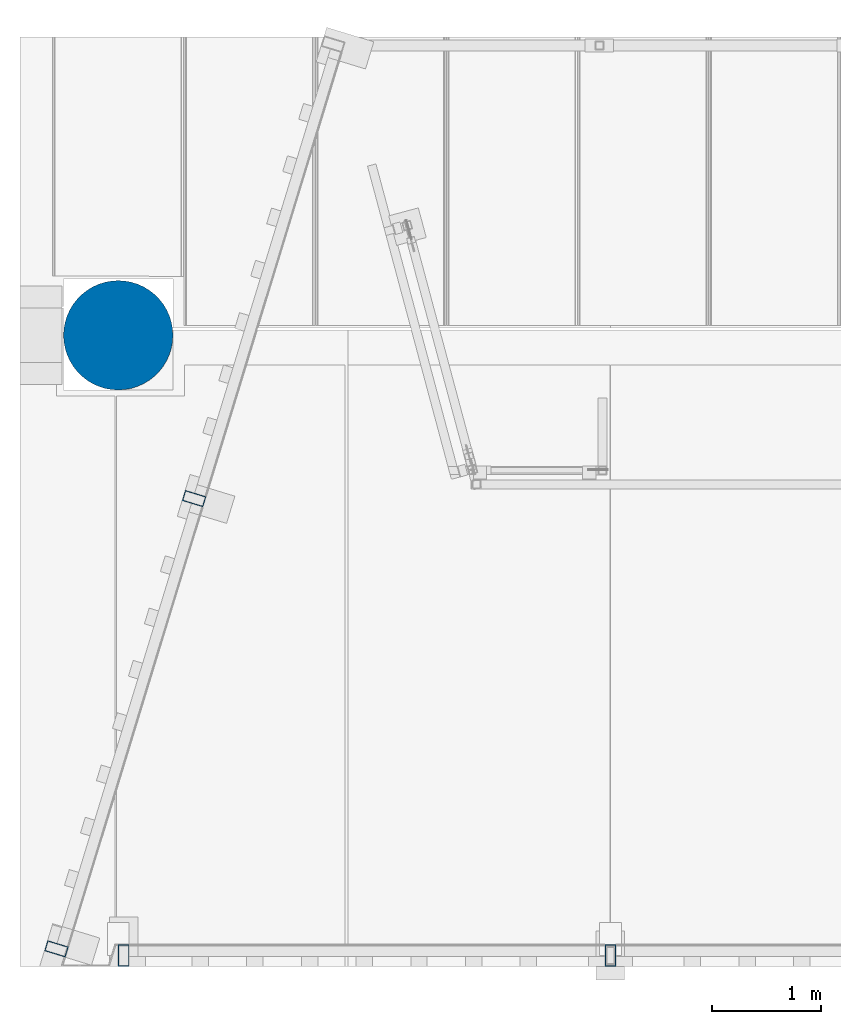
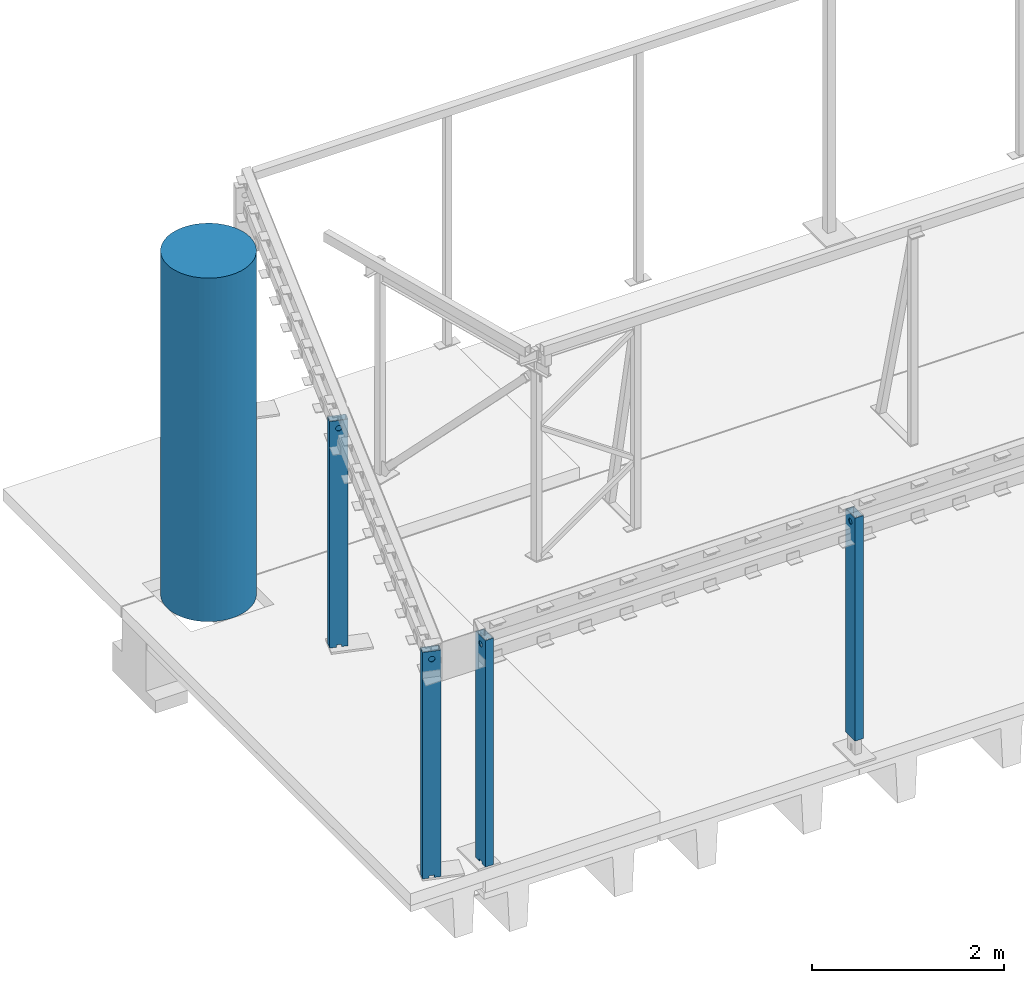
# One storey, part 1 of 19: 5 columns.
"""IFC2X3 building model written with IfcOpenShell, lengths in millimetres."""

from ifc_helpers import new_model, entity, si_unit, converted_unit, derived_unit, direction, frame, origin_with_axes, place, context, subcontext, project, spatial, faceted_brep, material, type_object, element, save


model = new_model("IFC2X3")

# Units and contexts
model_context = context("Model", 3, precision=0.01, world=frame((0.0, 4.29681676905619e-09, 0.0)), true_north=direction((4.01073788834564e-13, 1.0)))
plan_context = context("Plan", 3, precision=0.01, world=frame((0.0, 4.29681676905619e-09, 0.0)), true_north=direction((4.01073788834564e-13, 1.0)))
body_context = subcontext(model_context, "Body", "Model", "MODEL_VIEW")
ifc_project = project(units=[converted_unit("PLANEANGLEUNIT", "DEGREE", entity("IfcPositiveLengthMeasure", 0.0174532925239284), si_unit("PLANEANGLEUNIT", "RADIAN"), dimensions=[0, 0, 0, 0, 0, 0, 0]), si_unit("AREAUNIT", "SQUARE_METRE"), si_unit("LENGTHUNIT", "METRE", prefix="MILLI"), si_unit("MASSUNIT", "GRAM", prefix="KILO"), si_unit("POWERUNIT", "WATT"), si_unit("PRESSUREUNIT", "PASCAL", prefix="KILO"), si_unit("FORCEUNIT", "NEWTON", prefix="KILO"), si_unit("ELECTRICVOLTAGEUNIT", "VOLT"), si_unit("ELECTRICCURRENTUNIT", "AMPERE"), si_unit("THERMODYNAMICTEMPERATUREUNIT", "DEGREE_CELSIUS"), si_unit("TIMEUNIT", "SECOND"), si_unit("VOLUMEUNIT", "CUBIC_METRE"), derived_unit("LINEARVELOCITYUNIT", [(si_unit("LENGTHUNIT", "METRE"), 1), (si_unit("TIMEUNIT", "SECOND"), -1)]), derived_unit("VOLUMETRICFLOWRATEUNIT", [(si_unit("VOLUMEUNIT", "CUBIC_METRE"), 1), (si_unit("TIMEUNIT", "SECOND"), -1)]), derived_unit("THERMALTRANSMITTANCEUNIT", [(si_unit("POWERUNIT", "WATT"), 1), (si_unit("THERMODYNAMICTEMPERATUREUNIT", "KELVIN"), -1), (si_unit("AREAUNIT", "SQUARE_METRE"), -1)]), derived_unit("SOUNDPRESSUREUNIT", [(si_unit("PRESSUREUNIT", "PASCAL"), 1)])], contexts=[model_context, plan_context])

# Site, building, storey
site_placement = place(None, frame((0.0, -4.29681676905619e-09, 0.0), z_axis=(0.0, 0.0, 1.0), x_axis=(1.0, 0.0, 0.0)))
site = spatial("IfcSite", under=ifc_project, at=site_placement, Name="Gardermoen", CompositionType="ELEMENT")
building_placement = place(site_placement, frame((0.0, 4.29681676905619e-09, 0.0), z_axis=(0.0, 0.0, 1.0), x_axis=(1.0, 0.0, 0.0)))
building = spatial("IfcBuilding", under=site, at=building_placement, Name="TI", CompositionType="ELEMENT")
storey_placement = place(building_placement, origin_with_axes())
storey = spatial("IfcBuildingStorey", under=building, at=storey_placement, Name="F", CompositionType="ELEMENT", Elevation=0.0)

# Columns
ifc_material_1 = material(Name="STEEL/S355")
column_type_1 = type_object("IfcColumnType", Name="RHS200*100*8", PredefinedType="NOTDEFINED")
column_1_placement = place(storey_placement, frame((583050.000043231, 569830.0, 210855.0), z_axis=(0.0, 1.0, 0.0), x_axis=(0.0, 0.0, 1.0)))
element("IfcColumn", 1, at=column_1_placement, inside=storey, type_object=column_type_1, material=ifc_material_1, Name="STÅLSØYLE", ObjectType="RHS200*100*8", context=body_context, shape_type="Brep", body=[
    faceted_brep([(30.0000000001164, -50.0, -27.5), (30.0000000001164, -42.0, -27.5), (0.0, -42.0, -27.5), (0.0, -50.0, -27.5), (30.0000000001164, -50.0, 27.5), (30.0000000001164, -42.0, 27.5), (0.0, -50.0, 27.5), (0.0, -42.0, 27.5), (30.0000000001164, 42.0, -27.5), (30.0000000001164, 50.0, -27.5), (0.0, 50.0, -27.5), (0.0, 42.0, -27.5), (30.0000000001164, 42.0, 27.5), (30.0000000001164, 50.0, 27.5), (0.0, 42.0, 27.5), (0.0, 50.0, 27.5), (0.0, -50.0, -100.0), (0.0, 50.0, -100.0), (2882.0006866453, 50.0, -100.0), (2882.0006866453, -50.0, -100.0), (-1.39698386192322e-06, 50.0000000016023, 99.999992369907), (-1.39791518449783e-06, -49.9999999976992, 99.999992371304), (2882.0006866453, -50.0, 100.0), (2882.0006866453, 50.0, 100.0), (0.0, 42.0, 92.0), (0.0, -42.0, 92.0), (2882.0006866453, 42.0, 92.0), (2882.0006866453, -42.0, 92.0), (2882.0006866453, 42.0, -92.0), (2882.0006866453, -42.0, -92.0), (0.0, 42.0, -92.0), (0.0, -42.0, -92.0), (2806.74942397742, -41.9999999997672, 24.7487373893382), (2795.39460676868, -42.0, 32.3357836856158), (2782.0006866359, -42.0, 35.0000000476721), (2768.60676650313, -42.0, 32.3357836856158), (2757.25194929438, -41.9999999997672, 24.7487373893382), (2749.66490299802, -41.9999999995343, 13.3939201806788), (2747.0006866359, -41.9999999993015, 4.79631125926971e-08), (2749.66490299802, -41.9999999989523, -13.3939200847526), (2757.25194929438, -41.9999999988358, -24.7487372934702), (2768.60676650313, -41.9999999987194, -32.3357835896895), (2782.0006866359, -41.999999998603, -34.9999999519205), (2795.39460676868, -41.9999999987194, -32.3357835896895), (2806.74942397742, -41.9999999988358, -24.7487372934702), (2814.33647027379, -41.9999999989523, -13.3939200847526), (2817.0006866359, -41.9999999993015, 4.79631125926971e-08), (2814.33647027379, -41.9999999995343, 13.3939201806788), (2814.33647027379, -49.9999999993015, 13.3939201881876), (2817.0006866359, -49.9999999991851, 5.5413693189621e-08), (2806.74942397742, -49.9999999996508, 24.7487373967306), (2795.39460676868, -49.9999999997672, 32.3357836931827), (2782.0006866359, -49.9999999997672, 35.0000000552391), (2768.60676650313, -49.9999999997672, 32.3357836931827), (2757.25194929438, -49.9999999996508, 24.7487373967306), (2749.66490299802, -49.9999999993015, 13.3939201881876), (2747.0006866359, -49.9999999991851, 5.5413693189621e-08), (2749.66490299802, -49.9999999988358, -13.3939200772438), (2757.25194929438, -49.999999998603, -24.7487372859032), (2768.60676650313, -49.9999999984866, -32.3357835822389), (2782.0006866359, -49.9999999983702, -34.9999999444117), (2795.39460676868, -49.9999999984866, -32.3357835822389), (2806.74942397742, -49.999999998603, -24.7487372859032), (2814.33647027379, -49.9999999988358, -13.3939200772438), (2806.74942397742, 49.999999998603, 24.748737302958), (2795.39460676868, 49.9999999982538, 32.3357835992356), (2782.0006866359, 49.9999999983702, 34.9999999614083), (2768.60676650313, 49.9999999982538, 32.3357835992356), (2757.25194929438, 49.999999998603, 24.748737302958), (2749.66490299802, 49.9999999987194, 13.3939200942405), (2747.0006866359, 49.9999999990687, -3.84170562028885e-08), (2749.66490299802, 49.9999999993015, -13.393920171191), (2757.25194929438, 49.9999999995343, -24.7487373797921), (2768.60676650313, 49.9999999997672, -32.3357836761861), (2782.0006866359, 49.9999999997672, -35.0000000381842), (2795.39460676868, 49.9999999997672, -32.3357836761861), (2806.74942397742, 49.9999999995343, -24.7487373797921), (2814.33647027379, 49.9999999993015, -13.393920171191), (2817.0006866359, 49.9999999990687, -3.84170562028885e-08), (2814.33647027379, 49.9999999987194, 13.3939200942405), (2814.33647027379, 41.9999999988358, 13.3939201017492), (2817.0006866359, 41.9999999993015, -3.09664756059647e-08), (2806.74942397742, 41.999999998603, 24.7487373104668), (2795.39460676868, 41.999999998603, 32.3357836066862), (2782.0006866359, 41.9999999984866, 34.9999999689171), (2768.60676650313, 41.999999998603, 32.3357836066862), (2757.25194929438, 41.999999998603, 24.7487373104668), (2749.66490299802, 41.9999999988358, 13.3939201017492), (2747.0006866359, 41.9999999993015, -3.09664756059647e-08), (2749.66490299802, 41.9999999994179, -13.393920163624), (2757.25194929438, 41.9999999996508, -24.7487373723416), (2768.60676650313, 41.9999999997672, -32.3357836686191), (2782.0006866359, 41.9999999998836, -35.0000000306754), (2795.39460676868, 41.9999999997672, -32.3357836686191), (2806.74942397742, 41.9999999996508, -24.7487373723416), (2814.33647027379, 41.9999999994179, -13.393920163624)], [[[0, 1, 2, 3]], [[4, 5, 1, 0]], [[6, 7, 5, 4]], [[8, 9, 10, 11]], [[12, 13, 9, 8]], [[14, 15, 13, 12]], [[16, 17, 18, 19]], [[20, 21, 22, 23]], [[21, 20, 15, 14, 24, 25, 7, 6]], [[25, 24, 26, 27]], [[22, 19, 18, 23], [27, 26, 28, 29]], [[30, 31, 29, 28]], [[25, 27, 29, 31, 2, 1, 5, 7], [32, 33, 34, 35, 36, 37, 38, 39, 40, 41, 42, 43, 44, 45, 46, 47]], [[48, 47, 46, 49]], [[50, 32, 47, 48]], [[51, 33, 32, 50]], [[52, 34, 33, 51]], [[53, 35, 34, 52]], [[54, 36, 35, 53]], [[55, 37, 36, 54]], [[56, 38, 37, 55]], [[57, 39, 38, 56]], [[58, 40, 39, 57]], [[59, 41, 40, 58]], [[60, 42, 41, 59]], [[61, 43, 42, 60]], [[62, 44, 43, 61]], [[63, 45, 44, 62]], [[49, 46, 45, 63]], [[3, 16, 19, 22, 21, 6, 4, 0], [62, 61, 60, 59, 58, 57, 56, 55, 54, 53, 52, 51, 50, 48, 49, 63]], [[31, 30, 11, 10, 17, 16, 3, 2]], [[20, 23, 18, 17, 10, 9, 13, 15], [64, 65, 66, 67, 68, 69, 70, 71, 72, 73, 74, 75, 76, 77, 78, 79]], [[80, 79, 78, 81]], [[82, 64, 79, 80]], [[83, 65, 64, 82]], [[84, 66, 65, 83]], [[85, 67, 66, 84]], [[86, 68, 67, 85]], [[87, 69, 68, 86]], [[88, 70, 69, 87]], [[89, 71, 70, 88]], [[90, 72, 71, 89]], [[91, 73, 72, 90]], [[92, 74, 73, 91]], [[93, 75, 74, 92]], [[94, 76, 75, 93]], [[95, 77, 76, 94]], [[81, 78, 77, 95]], [[11, 30, 28, 26, 24, 14, 12, 8], [94, 93, 92, 91, 90, 89, 88, 87, 86, 85, 84, 83, 82, 80, 81, 95]]]),
])
column_2_placement = place(storey_placement, frame((587500.000043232, 569830.0, 210900.000305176), z_axis=(0.0, 1.0, 0.0), x_axis=(0.0, 0.0, 1.0)))
element("IfcColumn", 2, at=column_2_placement, inside=storey, type_object=column_type_1, material=ifc_material_1, Name="STÅLSØYLE", ObjectType="RHS200*100*8", context=body_context, shape_type="Brep", body=[
    faceted_brep([(2769.33616510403, -50.0, -13.3939201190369), (2769.33616510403, -42.0, -13.3939201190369), (2761.74911880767, -42.0, -24.7487373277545), (2761.74911880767, -50.0, -24.7487373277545), (2750.39430159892, -42.0, -32.3357836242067), (2750.39430159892, -50.0, -32.3357836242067), (2737.00038146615, -42.0, -34.999999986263), (2737.00038146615, -50.0, -34.999999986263), (2723.60646133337, -42.0, -32.3357836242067), (2723.60646133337, -50.0, -32.3357836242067), (2712.25164412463, -42.0, -24.7487373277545), (2712.25164412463, -50.0, -24.7487373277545), (2704.66459782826, -42.0, -13.3939201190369), (2704.66459782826, -50.0, -13.3939201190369), (2702.00038146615, -42.0, 1.37370079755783e-08), (2702.00038146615, -50.0, 1.37370079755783e-08), (2704.66459782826, -42.0, 13.3939201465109), (2704.66459782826, -50.0, 13.3939201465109), (2712.25164412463, -42.0, 24.7487373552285), (2712.25164412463, -50.0, 24.7487373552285), (2723.60646133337, -42.0, 32.3357836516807), (2723.60646133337, -50.0, 32.3357836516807), (2737.00038146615, -42.0, 35.000000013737), (2737.00038146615, -50.0, 35.000000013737), (2750.39430159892, -42.0, 32.3357836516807), (2750.39430159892, -50.0, 32.3357836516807), (2761.74911880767, -42.0, 24.7487373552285), (2761.74911880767, -50.0, 24.7487373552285), (2769.33616510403, -42.0, 13.3939201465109), (2769.33616510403, -50.0, 13.3939201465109), (2772.00038146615, -42.0, 1.37370079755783e-08), (2772.00038146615, -50.0, 1.37370079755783e-08), (2769.33616510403, 42.0, -13.3939201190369), (2769.33616510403, 50.0, -13.3939201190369), (2761.74911880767, 50.0, -24.7487373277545), (2761.74911880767, 42.0, -24.7487373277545), (2750.39430159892, 50.0, -32.3357836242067), (2750.39430159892, 42.0, -32.3357836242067), (2737.00038146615, 50.0, -34.999999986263), (2737.00038146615, 42.0, -34.999999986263), (2723.60646133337, 50.0, -32.3357836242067), (2723.60646133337, 42.0, -32.3357836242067), (2712.25164412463, 50.0, -24.7487373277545), (2712.25164412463, 42.0, -24.7487373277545), (2704.66459782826, 50.0, -13.3939201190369), (2704.66459782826, 42.0, -13.3939201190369), (2702.00038146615, 50.0, 1.37370079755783e-08), (2702.00038146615, 42.0, 1.37370079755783e-08), (2704.66459782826, 50.0, 13.3939201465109), (2704.66459782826, 42.0, 13.3939201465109), (2712.25164412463, 50.0, 24.7487373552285), (2712.25164412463, 42.0, 24.7487373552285), (2723.60646133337, 50.0, 32.3357836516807), (2723.60646133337, 42.0, 32.3357836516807), (2737.00038146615, 50.0, 35.000000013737), (2737.00038146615, 42.0, 35.000000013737), (2750.39430159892, 50.0, 32.3357836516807), (2750.39430159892, 42.0, 32.3357836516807), (2761.74911880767, 50.0, 24.7487373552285), (2761.74911880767, 42.0, 24.7487373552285), (2769.33616510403, 50.0, 13.3939201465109), (2769.33616510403, 42.0, 13.3939201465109), (2772.00038146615, 50.0, 1.37370079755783e-08), (2772.00038146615, 42.0, 1.37370079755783e-08), (0.0, -50.0, -100.0), (0.0, 50.0, -100.0), (2836.99931335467, 50.0, -100.0), (2836.99931335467, -50.0, -100.0), (-1.39791518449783e-06, -49.9999999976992, 99.999992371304), (2836.99931335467, -50.0, 100.0), (-1.39698386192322e-06, 50.0000000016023, 99.999992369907), (2836.99931335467, 50.0, 100.0), (0.0, 42.0, 92.0), (0.0, -42.0, 92.0), (0.0, -42.0, -92.0), (0.0, 42.0, -92.0), (2836.99931335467, 42.0, -92.0), (2836.99931335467, 42.0, 92.0), (2836.99931335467, -42.0, 92.0), (2836.99931335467, -42.0, -92.0)], [[[0, 1, 2, 3]], [[3, 2, 4, 5]], [[5, 4, 6, 7]], [[7, 6, 8, 9]], [[9, 8, 10, 11]], [[11, 10, 12, 13]], [[13, 12, 14, 15]], [[15, 14, 16, 17]], [[17, 16, 18, 19]], [[19, 18, 20, 21]], [[21, 20, 22, 23]], [[23, 22, 24, 25]], [[25, 24, 26, 27]], [[27, 26, 28, 29]], [[29, 28, 30, 31]], [[31, 30, 1, 0]], [[32, 33, 34, 35]], [[35, 34, 36, 37]], [[37, 36, 38, 39]], [[39, 38, 40, 41]], [[41, 40, 42, 43]], [[43, 42, 44, 45]], [[45, 44, 46, 47]], [[47, 46, 48, 49]], [[49, 48, 50, 51]], [[51, 50, 52, 53]], [[53, 52, 54, 55]], [[55, 54, 56, 57]], [[57, 56, 58, 59]], [[59, 58, 60, 61]], [[61, 60, 62, 63]], [[63, 62, 33, 32]], [[64, 65, 66, 67]], [[68, 64, 67, 69], [3, 5, 7, 9, 11, 13, 15, 17, 19, 21, 23, 25, 27, 29, 31, 0]], [[70, 68, 69, 71]], [[64, 68, 70, 65], [72, 73, 74, 75]], [[72, 75, 76, 77], [35, 37, 39, 41, 43, 45, 47, 49, 51, 53, 55, 57, 59, 61, 63, 32]], [[73, 72, 77, 78]], [[74, 73, 78, 79], [26, 24, 22, 20, 18, 16, 14, 12, 10, 8, 6, 4, 2, 1, 30, 28]], [[75, 74, 79, 76]], [[69, 67, 66, 71], [78, 77, 76, 79]], [[65, 70, 71, 66], [58, 56, 54, 52, 50, 48, 46, 44, 42, 40, 38, 36, 34, 33, 62, 60]]]),
])
column_3_placement = place(storey_placement, frame((583693.835921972, 574006.690955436, 210855.0), z_axis=(0.956304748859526, -0.292371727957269, 0.0), x_axis=(0.0, 0.0, 1.0)))
element("IfcColumn", 3, at=column_3_placement, inside=storey, type_object=column_type_1, material=ifc_material_1, Name="STÅLSØYLE", ObjectType="RHS200*100*8", context=body_context, shape_type="Brep", body=[
    faceted_brep([(30.0000000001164, -50.0, -27.5), (30.0000000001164, -42.0, -27.5), (0.0, -42.0, -27.5), (0.0, -50.0, -27.5), (30.0000000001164, -50.0, 27.5), (30.0000000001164, -42.0, 27.5), (0.0, -50.0, 27.5), (0.0, -42.0, 27.5), (30.0000000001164, 42.0, -27.5), (30.0000000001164, 50.0, -27.5), (0.0, 50.0, -27.5), (0.0, 42.0, -27.5), (30.0000000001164, 42.0, 27.5), (30.0000000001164, 50.0, 27.5), (0.0, 42.0, 27.5), (0.0, 50.0, 27.5), (0.0, -50.0, -100.0), (0.0, 50.0, -100.0), (2882.0006866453, 50.0, -100.0), (2882.0006866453, -50.0, -100.0), (-1.39698386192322e-06, 50.0000000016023, 99.999992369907), (-1.39791518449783e-06, -49.9999999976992, 99.999992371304), (2882.0006866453, -50.0, 100.0), (2882.0006866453, 50.0, 100.0), (0.0, 42.0, 92.0), (0.0, -42.0, 92.0), (2882.0006866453, 42.0, 92.0), (2882.0006866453, -42.0, 92.0), (2882.0006866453, 42.0, -92.0), (2882.0006866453, -42.0, -92.0), (0.0, 42.0, -92.0), (0.0, -42.0, -92.0), (2806.74942397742, -41.9999999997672, 24.7487373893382), (2795.39460676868, -42.0, 32.3357836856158), (2782.0006866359, -42.0, 35.0000000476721), (2768.60676650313, -42.0, 32.3357836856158), (2757.25194929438, -41.9999999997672, 24.7487373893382), (2749.66490299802, -41.9999999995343, 13.3939201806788), (2747.0006866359, -41.9999999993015, 4.79631125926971e-08), (2749.66490299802, -41.9999999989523, -13.3939200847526), (2757.25194929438, -41.9999999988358, -24.7487372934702), (2768.60676650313, -41.9999999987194, -32.3357835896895), (2782.0006866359, -41.999999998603, -34.9999999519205), (2795.39460676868, -41.9999999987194, -32.3357835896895), (2806.74942397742, -41.9999999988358, -24.7487372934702), (2814.33647027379, -41.9999999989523, -13.3939200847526), (2817.0006866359, -41.9999999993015, 4.79631125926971e-08), (2814.33647027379, -41.9999999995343, 13.3939201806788), (2814.33647027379, -49.9999999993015, 13.3939201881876), (2817.0006866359, -49.9999999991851, 5.5413693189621e-08), (2806.74942397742, -49.9999999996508, 24.7487373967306), (2795.39460676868, -49.9999999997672, 32.3357836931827), (2782.0006866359, -49.9999999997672, 35.0000000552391), (2768.60676650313, -49.9999999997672, 32.3357836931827), (2757.25194929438, -49.9999999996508, 24.7487373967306), (2749.66490299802, -49.9999999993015, 13.3939201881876), (2747.0006866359, -49.9999999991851, 5.5413693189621e-08), (2749.66490299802, -49.9999999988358, -13.3939200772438), (2757.25194929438, -49.999999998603, -24.7487372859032), (2768.60676650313, -49.9999999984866, -32.3357835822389), (2782.0006866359, -49.9999999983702, -34.9999999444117), (2795.39460676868, -49.9999999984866, -32.3357835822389), (2806.74942397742, -49.999999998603, -24.7487372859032), (2814.33647027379, -49.9999999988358, -13.3939200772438), (2806.74942397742, 49.999999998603, 24.748737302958), (2795.39460676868, 49.9999999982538, 32.3357835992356), (2782.0006866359, 49.9999999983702, 34.9999999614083), (2768.60676650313, 49.9999999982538, 32.3357835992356), (2757.25194929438, 49.999999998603, 24.748737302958), (2749.66490299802, 49.9999999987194, 13.3939200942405), (2747.0006866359, 49.9999999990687, -3.84170562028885e-08), (2749.66490299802, 49.9999999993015, -13.393920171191), (2757.25194929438, 49.9999999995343, -24.7487373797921), (2768.60676650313, 49.9999999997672, -32.3357836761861), (2782.0006866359, 49.9999999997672, -35.0000000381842), (2795.39460676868, 49.9999999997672, -32.3357836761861), (2806.74942397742, 49.9999999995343, -24.7487373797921), (2814.33647027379, 49.9999999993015, -13.393920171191), (2817.0006866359, 49.9999999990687, -3.84170562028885e-08), (2814.33647027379, 49.9999999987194, 13.3939200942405), (2814.33647027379, 41.9999999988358, 13.3939201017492), (2817.0006866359, 41.9999999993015, -3.09664756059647e-08), (2806.74942397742, 41.999999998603, 24.7487373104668), (2795.39460676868, 41.999999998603, 32.3357836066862), (2782.0006866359, 41.9999999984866, 34.9999999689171), (2768.60676650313, 41.999999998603, 32.3357836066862), (2757.25194929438, 41.999999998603, 24.7487373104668), (2749.66490299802, 41.9999999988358, 13.3939201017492), (2747.0006866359, 41.9999999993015, -3.09664756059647e-08), (2749.66490299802, 41.9999999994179, -13.393920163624), (2757.25194929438, 41.9999999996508, -24.7487373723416), (2768.60676650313, 41.9999999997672, -32.3357836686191), (2782.0006866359, 41.9999999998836, -35.0000000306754), (2795.39460676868, 41.9999999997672, -32.3357836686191), (2806.74942397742, 41.9999999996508, -24.7487373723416), (2814.33647027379, 41.9999999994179, -13.393920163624)], [[[0, 1, 2, 3]], [[4, 5, 1, 0]], [[6, 7, 5, 4]], [[8, 9, 10, 11]], [[12, 13, 9, 8]], [[14, 15, 13, 12]], [[16, 17, 18, 19]], [[20, 21, 22, 23]], [[21, 20, 15, 14, 24, 25, 7, 6]], [[25, 24, 26, 27]], [[22, 19, 18, 23], [27, 26, 28, 29]], [[30, 31, 29, 28]], [[25, 27, 29, 31, 2, 1, 5, 7], [32, 33, 34, 35, 36, 37, 38, 39, 40, 41, 42, 43, 44, 45, 46, 47]], [[48, 47, 46, 49]], [[50, 32, 47, 48]], [[51, 33, 32, 50]], [[52, 34, 33, 51]], [[53, 35, 34, 52]], [[54, 36, 35, 53]], [[55, 37, 36, 54]], [[56, 38, 37, 55]], [[57, 39, 38, 56]], [[58, 40, 39, 57]], [[59, 41, 40, 58]], [[60, 42, 41, 59]], [[61, 43, 42, 60]], [[62, 44, 43, 61]], [[63, 45, 44, 62]], [[49, 46, 45, 63]], [[3, 16, 19, 22, 21, 6, 4, 0], [62, 61, 60, 59, 58, 57, 56, 55, 54, 53, 52, 51, 50, 48, 49, 63]], [[31, 30, 11, 10, 17, 16, 3, 2]], [[20, 23, 18, 17, 10, 9, 13, 15], [64, 65, 66, 67, 68, 69, 70, 71, 72, 73, 74, 75, 76, 77, 78, 79]], [[80, 79, 78, 81]], [[82, 64, 79, 80]], [[83, 65, 64, 82]], [[84, 66, 65, 83]], [[85, 67, 66, 84]], [[86, 68, 67, 85]], [[87, 69, 68, 86]], [[88, 70, 69, 87]], [[89, 71, 70, 88]], [[90, 72, 71, 89]], [[91, 73, 72, 90]], [[92, 74, 73, 91]], [[93, 75, 74, 92]], [[94, 76, 75, 93]], [[95, 77, 76, 94]], [[81, 78, 77, 95]], [[11, 30, 28, 26, 24, 14, 12, 8], [94, 93, 92, 91, 90, 89, 88, 87, 86, 85, 84, 83, 82, 80, 81, 95]]]),
])
column_4_placement = place(storey_placement, frame((582435.175732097, 569889.798981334, 210855.0), z_axis=(0.956304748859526, -0.292371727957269, 0.0), x_axis=(0.0, 0.0, 1.0)))
element("IfcColumn", 4, at=column_4_placement, inside=storey, type_object=column_type_1, material=ifc_material_1, Name="STÅLSØYLE", ObjectType="RHS200*100*8", context=body_context, shape_type="Brep", body=[
    faceted_brep([(30.0000000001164, -50.0, -27.5), (30.0000000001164, -42.0, -27.5), (0.0, -42.0, -27.5), (0.0, -50.0, -27.5), (30.0000000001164, -50.0, 27.5), (30.0000000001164, -42.0, 27.5), (0.0, -50.0, 27.5), (0.0, -42.0, 27.5), (30.0000000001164, 42.0, -27.5), (30.0000000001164, 50.0, -27.5), (0.0, 50.0, -27.5), (0.0, 42.0, -27.5), (30.0000000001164, 42.0, 27.5), (30.0000000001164, 50.0, 27.5), (0.0, 42.0, 27.5), (0.0, 50.0, 27.5), (0.0, -50.0, -100.0), (0.0, 50.0, -100.0), (2882.0006866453, 50.0, -100.0), (2882.0006866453, -50.0, -100.0), (-1.39698386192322e-06, 50.0000000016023, 99.999992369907), (-1.39791518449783e-06, -49.9999999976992, 99.999992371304), (2882.0006866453, -50.0, 100.0), (2882.0006866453, 50.0, 100.0), (0.0, 42.0, 92.0), (0.0, -42.0, 92.0), (2882.0006866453, 42.0, 92.0), (2882.0006866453, -42.0, 92.0), (2882.0006866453, 42.0, -92.0), (2882.0006866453, -42.0, -92.0), (0.0, 42.0, -92.0), (0.0, -42.0, -92.0), (2806.74942397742, -41.9999999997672, 24.7487373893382), (2795.39460676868, -42.0, 32.3357836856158), (2782.0006866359, -42.0, 35.0000000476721), (2768.60676650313, -42.0, 32.3357836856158), (2757.25194929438, -41.9999999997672, 24.7487373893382), (2749.66490299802, -41.9999999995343, 13.3939201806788), (2747.0006866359, -41.9999999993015, 4.79631125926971e-08), (2749.66490299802, -41.9999999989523, -13.3939200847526), (2757.25194929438, -41.9999999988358, -24.7487372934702), (2768.60676650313, -41.9999999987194, -32.3357835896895), (2782.0006866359, -41.999999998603, -34.9999999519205), (2795.39460676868, -41.9999999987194, -32.3357835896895), (2806.74942397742, -41.9999999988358, -24.7487372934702), (2814.33647027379, -41.9999999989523, -13.3939200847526), (2817.0006866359, -41.9999999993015, 4.79631125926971e-08), (2814.33647027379, -41.9999999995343, 13.3939201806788), (2814.33647027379, -49.9999999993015, 13.3939201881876), (2817.0006866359, -49.9999999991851, 5.5413693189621e-08), (2806.74942397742, -49.9999999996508, 24.7487373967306), (2795.39460676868, -49.9999999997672, 32.3357836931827), (2782.0006866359, -49.9999999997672, 35.0000000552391), (2768.60676650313, -49.9999999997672, 32.3357836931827), (2757.25194929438, -49.9999999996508, 24.7487373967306), (2749.66490299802, -49.9999999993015, 13.3939201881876), (2747.0006866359, -49.9999999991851, 5.5413693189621e-08), (2749.66490299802, -49.9999999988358, -13.3939200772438), (2757.25194929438, -49.999999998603, -24.7487372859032), (2768.60676650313, -49.9999999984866, -32.3357835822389), (2782.0006866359, -49.9999999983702, -34.9999999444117), (2795.39460676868, -49.9999999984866, -32.3357835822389), (2806.74942397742, -49.999999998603, -24.7487372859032), (2814.33647027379, -49.9999999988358, -13.3939200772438), (2806.74942397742, 49.999999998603, 24.748737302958), (2795.39460676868, 49.9999999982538, 32.3357835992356), (2782.0006866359, 49.9999999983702, 34.9999999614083), (2768.60676650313, 49.9999999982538, 32.3357835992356), (2757.25194929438, 49.999999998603, 24.748737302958), (2749.66490299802, 49.9999999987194, 13.3939200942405), (2747.0006866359, 49.9999999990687, -3.84170562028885e-08), (2749.66490299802, 49.9999999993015, -13.393920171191), (2757.25194929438, 49.9999999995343, -24.7487373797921), (2768.60676650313, 49.9999999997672, -32.3357836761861), (2782.0006866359, 49.9999999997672, -35.0000000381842), (2795.39460676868, 49.9999999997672, -32.3357836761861), (2806.74942397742, 49.9999999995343, -24.7487373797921), (2814.33647027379, 49.9999999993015, -13.393920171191), (2817.0006866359, 49.9999999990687, -3.84170562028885e-08), (2814.33647027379, 49.9999999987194, 13.3939200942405), (2814.33647027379, 41.9999999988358, 13.3939201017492), (2817.0006866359, 41.9999999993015, -3.09664756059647e-08), (2806.74942397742, 41.999999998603, 24.7487373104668), (2795.39460676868, 41.999999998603, 32.3357836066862), (2782.0006866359, 41.9999999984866, 34.9999999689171), (2768.60676650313, 41.999999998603, 32.3357836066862), (2757.25194929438, 41.999999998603, 24.7487373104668), (2749.66490299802, 41.9999999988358, 13.3939201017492), (2747.0006866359, 41.9999999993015, -3.09664756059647e-08), (2749.66490299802, 41.9999999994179, -13.393920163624), (2757.25194929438, 41.9999999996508, -24.7487373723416), (2768.60676650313, 41.9999999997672, -32.3357836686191), (2782.0006866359, 41.9999999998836, -35.0000000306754), (2795.39460676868, 41.9999999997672, -32.3357836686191), (2806.74942397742, 41.9999999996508, -24.7487373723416), (2814.33647027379, 41.9999999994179, -13.393920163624)], [[[0, 1, 2, 3]], [[4, 5, 1, 0]], [[6, 7, 5, 4]], [[8, 9, 10, 11]], [[12, 13, 9, 8]], [[14, 15, 13, 12]], [[16, 17, 18, 19]], [[20, 21, 22, 23]], [[21, 20, 15, 14, 24, 25, 7, 6]], [[25, 24, 26, 27]], [[22, 19, 18, 23], [27, 26, 28, 29]], [[30, 31, 29, 28]], [[25, 27, 29, 31, 2, 1, 5, 7], [32, 33, 34, 35, 36, 37, 38, 39, 40, 41, 42, 43, 44, 45, 46, 47]], [[48, 47, 46, 49]], [[50, 32, 47, 48]], [[51, 33, 32, 50]], [[52, 34, 33, 51]], [[53, 35, 34, 52]], [[54, 36, 35, 53]], [[55, 37, 36, 54]], [[56, 38, 37, 55]], [[57, 39, 38, 56]], [[58, 40, 39, 57]], [[59, 41, 40, 58]], [[60, 42, 41, 59]], [[61, 43, 42, 60]], [[62, 44, 43, 61]], [[63, 45, 44, 62]], [[49, 46, 45, 63]], [[3, 16, 19, 22, 21, 6, 4, 0], [62, 61, 60, 59, 58, 57, 56, 55, 54, 53, 52, 51, 50, 48, 49, 63]], [[31, 30, 11, 10, 17, 16, 3, 2]], [[20, 23, 18, 17, 10, 9, 13, 15], [64, 65, 66, 67, 68, 69, 70, 71, 72, 73, 74, 75, 76, 77, 78, 79]], [[80, 79, 78, 81]], [[82, 64, 79, 80]], [[83, 65, 64, 82]], [[84, 66, 65, 83]], [[85, 67, 66, 84]], [[86, 68, 67, 85]], [[87, 69, 68, 86]], [[88, 70, 69, 87]], [[89, 71, 70, 88]], [[90, 72, 71, 89]], [[91, 73, 72, 90]], [[92, 74, 73, 91]], [[93, 75, 74, 92]], [[94, 76, 75, 93]], [[95, 77, 76, 94]], [[81, 78, 77, 95]], [[11, 30, 28, 26, 24, 14, 12, 8], [94, 93, 92, 91, 90, 89, 88, 87, 86, 85, 84, 83, 82, 80, 81, 95]]]),
])
ifc_material_2 = material(Name="CONCRETE/C55/67")
column_type_2 = type_object("IfcColumnType", Name="D1000", PredefinedType="NOTDEFINED")
column_5_placement = place(storey_placement, frame((583000.0, 575500.0, 210830.0), z_axis=(0.0, 1.0, 0.0), x_axis=(0.0, 0.0, 1.0)))
element("IfcColumn", 5, at=column_5_placement, inside=storey, type_object=column_type_2, material=ifc_material_2, Name="PLASSTØPTSØYLE", ObjectType="D1000", context=body_context, shape_type="Brep", body=[
    faceted_brep([(0.0, -500.0, 0.0), (0.0, -496.354437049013, -60.268340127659), (4370.0, -496.354437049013, -60.268340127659), (4370.0, -500.0, 0.0), (0.0, -485.470908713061, -119.657832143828), (4370.0, -485.470908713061, -119.657832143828), (0.0, -467.508121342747, -177.302443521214), (4370.0, -467.508121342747, -177.302443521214), (0.0, -442.728012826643, -232.361586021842), (4370.0, -442.728012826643, -232.361586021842), (0.0, -411.491932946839, -284.032373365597), (4370.0, -411.491932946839, -284.032373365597), (0.0, -374.255374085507, -331.561329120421), (4370.0, -374.255374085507, -331.561329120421), (0.0, -331.561329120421, -374.255374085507), (4370.0, -331.561329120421, -374.255374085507), (0.0, -284.032373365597, -411.491932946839), (4370.0, -284.032373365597, -411.491932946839), (0.0, -232.361586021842, -442.728012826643), (4370.0, -232.361586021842, -442.728012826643), (0.0, -177.302443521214, -467.508121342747), (4370.0, -177.302443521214, -467.508121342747), (0.0, -119.657832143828, -485.470908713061), (4370.0, -119.657832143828, -485.470908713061), (0.0, -60.268340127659, -496.354437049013), (4370.0, -60.268340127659, -496.354437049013), (0.0, 0.0, -500.0), (4370.0, 0.0, -500.0), (0.0, 60.268340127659, -496.354437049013), (4370.0, 60.268340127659, -496.354437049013), (0.0, 119.657832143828, -485.470908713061), (4370.0, 119.657832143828, -485.470908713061), (0.0, 177.302443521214, -467.508121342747), (4370.0, 177.302443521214, -467.508121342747), (0.0, 232.361586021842, -442.728012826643), (4370.0, 232.361586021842, -442.728012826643), (0.0, 284.032373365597, -411.491932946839), (4370.0, 284.032373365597, -411.491932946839), (0.0, 331.561329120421, -374.255374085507), (4370.0, 331.561329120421, -374.255374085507), (0.0, 374.255374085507, -331.561329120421), (4370.0, 374.255374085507, -331.561329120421), (0.0, 411.491932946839, -284.032373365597), (4370.0, 411.491932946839, -284.032373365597), (0.0, 442.728012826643, -232.361586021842), (4370.0, 442.728012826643, -232.361586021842), (0.0, 467.508121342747, -177.302443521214), (4370.0, 467.508121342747, -177.302443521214), (0.0, 485.470908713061, -119.657832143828), (4370.0, 485.470908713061, -119.657832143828), (0.0, 496.354437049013, -60.268340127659), (4370.0, 496.354437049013, -60.268340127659), (0.0, 500.0, 0.0), (4370.0, 500.0, 0.0), (0.0, 496.354437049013, 60.268340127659), (4370.0, 496.354437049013, 60.268340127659), (0.0, 485.470908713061, 119.657832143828), (4370.0, 485.470908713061, 119.657832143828), (0.0, 467.508121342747, 177.302443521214), (4370.0, 467.508121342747, 177.302443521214), (0.0, 442.728012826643, 232.361586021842), (4370.0, 442.728012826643, 232.361586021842), (0.0, 411.491932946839, 284.032373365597), (4370.0, 411.491932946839, 284.032373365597), (0.0, 374.255374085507, 331.561329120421), (4370.0, 374.255374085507, 331.561329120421), (0.0, 331.561329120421, 374.255374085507), (4370.0, 331.561329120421, 374.255374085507), (0.0, 284.032373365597, 411.491932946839), (4370.0, 284.032373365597, 411.491932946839), (0.0, 232.361586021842, 442.728012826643), (4370.0, 232.361586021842, 442.728012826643), (0.0, 177.302443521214, 467.508121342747), (4370.0, 177.302443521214, 467.508121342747), (0.0, 119.657832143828, 485.470908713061), (4370.0, 119.657832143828, 485.470908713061), (0.0, 60.268340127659, 496.354437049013), (4370.0, 60.268340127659, 496.354437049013), (0.0, 0.0, 500.0), (4370.0, 0.0, 500.0), (0.0, -60.268340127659, 496.354437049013), (4370.0, -60.268340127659, 496.354437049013), (0.0, -119.657832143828, 485.470908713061), (4370.0, -119.657832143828, 485.470908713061), (0.0, -177.302443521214, 467.508121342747), (4370.0, -177.302443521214, 467.508121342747), (0.0, -232.361586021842, 442.728012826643), (4370.0, -232.361586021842, 442.728012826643), (0.0, -284.032373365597, 411.491932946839), (4370.0, -284.032373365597, 411.491932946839), (0.0, -331.561329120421, 374.255374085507), (4370.0, -331.561329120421, 374.255374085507), (0.0, -374.255374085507, 331.561329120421), (4370.0, -374.255374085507, 331.561329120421), (0.0, -411.491932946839, 284.032373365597), (4370.0, -411.491932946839, 284.032373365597), (0.0, -442.728012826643, 232.361586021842), (4370.0, -442.728012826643, 232.361586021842), (0.0, -467.508121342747, 177.302443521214), (4370.0, -467.508121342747, 177.302443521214), (0.0, -485.470908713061, 119.657832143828), (4370.0, -485.470908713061, 119.657832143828), (0.0, -496.354437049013, 60.268340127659), (4370.0, -496.354437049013, 60.268340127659)], [[[0, 1, 2, 3]], [[1, 4, 5, 2]], [[4, 6, 7, 5]], [[6, 8, 9, 7]], [[8, 10, 11, 9]], [[10, 12, 13, 11]], [[12, 14, 15, 13]], [[14, 16, 17, 15]], [[16, 18, 19, 17]], [[18, 20, 21, 19]], [[20, 22, 23, 21]], [[22, 24, 25, 23]], [[24, 26, 27, 25]], [[26, 28, 29, 27]], [[28, 30, 31, 29]], [[30, 32, 33, 31]], [[32, 34, 35, 33]], [[34, 36, 37, 35]], [[36, 38, 39, 37]], [[38, 40, 41, 39]], [[40, 42, 43, 41]], [[42, 44, 45, 43]], [[44, 46, 47, 45]], [[46, 48, 49, 47]], [[48, 50, 51, 49]], [[50, 52, 53, 51]], [[52, 54, 55, 53]], [[54, 56, 57, 55]], [[56, 58, 59, 57]], [[58, 60, 61, 59]], [[60, 62, 63, 61]], [[62, 64, 65, 63]], [[64, 66, 67, 65]], [[66, 68, 69, 67]], [[68, 70, 71, 69]], [[70, 72, 73, 71]], [[72, 74, 75, 73]], [[74, 76, 77, 75]], [[76, 78, 79, 77]], [[78, 80, 81, 79]], [[80, 82, 83, 81]], [[82, 84, 85, 83]], [[84, 86, 87, 85]], [[86, 88, 89, 87]], [[88, 90, 91, 89]], [[90, 92, 93, 91]], [[92, 94, 95, 93]], [[94, 96, 97, 95]], [[96, 98, 99, 97]], [[98, 100, 101, 99]], [[100, 102, 103, 101]], [[102, 0, 3, 103]], [[5, 7, 9, 11, 13, 15, 17, 19, 21, 23, 25, 27, 29, 31, 33, 35, 37, 39, 41, 43, 45, 47, 49, 51, 53, 55, 57, 59, 61, 63, 65, 67, 69, 71, 73, 75, 77, 79, 81, 83, 85, 87, 89, 91, 93, 95, 97, 99, 101, 103, 3, 2]], [[102, 100, 98, 96, 94, 92, 90, 88, 86, 84, 82, 80, 78, 76, 74, 72, 70, 68, 66, 64, 62, 60, 58, 56, 54, 52, 50, 48, 46, 44, 42, 40, 38, 36, 34, 32, 30, 28, 26, 24, 22, 20, 18, 16, 14, 12, 10, 8, 6, 4, 1, 0]]]),
])

save(model, "model.ifc")
